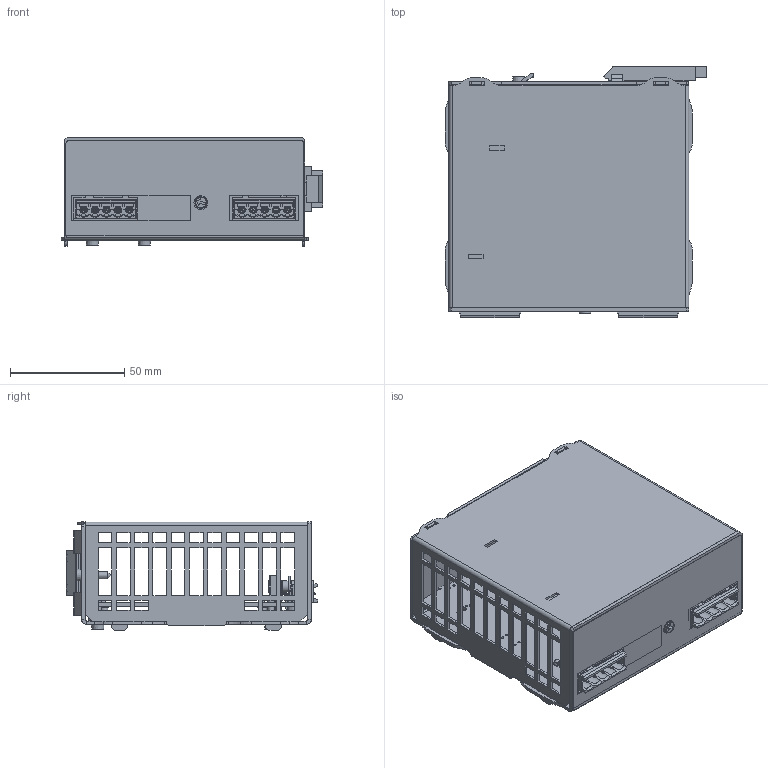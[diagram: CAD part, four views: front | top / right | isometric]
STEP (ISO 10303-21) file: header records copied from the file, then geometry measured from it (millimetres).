
FILE_DESCRIPTION((''),'2;1');
FILE_NAME('M:\Disegni\Progetti\1_5 Carica Batterie\CB36W\Immagini & Rendering\151202 CB36W Complete Drawings 2D-3D\CB36W Complete Drawing.stp','2015-12-02T09:51:42',('Tecnico2'),(''),'Autodesk Inventor 2012','Autodesk Inventor 2012','');
FILE_SCHEMA(('AUTOMOTIVE_DESIGN { 1 0 10303 214 1 1 1 1 }'));
Products named in the file (21): CB36W_Assembly; A24_323_193A8_Assemblato; A24_323_193A8; Strip 2P_3; SAURO 5P p.5.0 COM059P1; S1-01-012_5; S19-00-009; SAURO 3P p.10 COM039P2; Perno Trimmer Piccolo; Potenziometro CA9H2.5 Verticale; Led OSRAM LS A670; Filtro 742730023; PST-4; M3M_00F_041_A2_Fondo; SOS-440-4; M3M_00C_041_Coperchio; Screw GB_T 2171.1 M3 x 6; Screw GB_T 2171.1 M3 x 13 Autofilettante; MGP.451.90MA5_Gancio Din; M4D_100_436_A2_Label
Assembly tree (32 placements, depth 4):
  CB36W_Assembly
    A24_323_193A8_Assemblato
      A24_323_193A8
      Strip 2P_3
      SAURO 5P p.5.0 COM059P1
        S1-01-012_5
        S19-00-009  x5
      SAURO 3P p.10 COM039P2
        S1-01-012_5
        S19-00-009  x3
      Perno Trimmer Piccolo
      Potenziometro CA9H2.5 Verticale
      Led OSRAM LS A670  x2
      PST-4  x3
    M3M_00F_041_A2_Fondo
      M3M_00F_041_A2_Fondo
      SOS-440-4
    M3M_00C_041_Coperchio
    Screw GB_T 2171.1 M3 x 6
    Screw GB_T 2171.1 M3 x 13 Autofilettante  x3
    MGP.451.90MA5_Gancio Din
    M4D_100_436_A2_Label
  Filtro 742730023
Bounding box: 114.5 x 110.21 x 47.6 mm (x, y, z)
Volume: 64692.7 mm3; surface area: 110150.5 mm2
Topology: 46 solids, 48 shells, 3134 faces, 8409 edges, 5365 vertices
Faces by surface type: plane 1833, cylinder 879, torus 206, bspline 134, sphere 43, cone 39
Full cylindrical faces by diameter (mm): 1 x84, 2 x1, 2.4 x2, 2.464 x1, 2.5 x2, 2.675 x4, 2.75 x10, 2.8 x2, 3 x9, 3.1 x2, 3.3 x2, 3.5 x1, 3.8 x3, 4.3 x6, 5 x5, 5.594 x1, 6 x5, 9 x1
Entity records: 56311 total; most frequent: CARTESIAN_POINT 10529, ORIENTED_EDGE 9220, DIRECTION 9020, EDGE_CURVE 4614, VECTOR 3592, LINE 3592, VERTEX_POINT 3071, AXIS2_PLACEMENT_3D 2714
